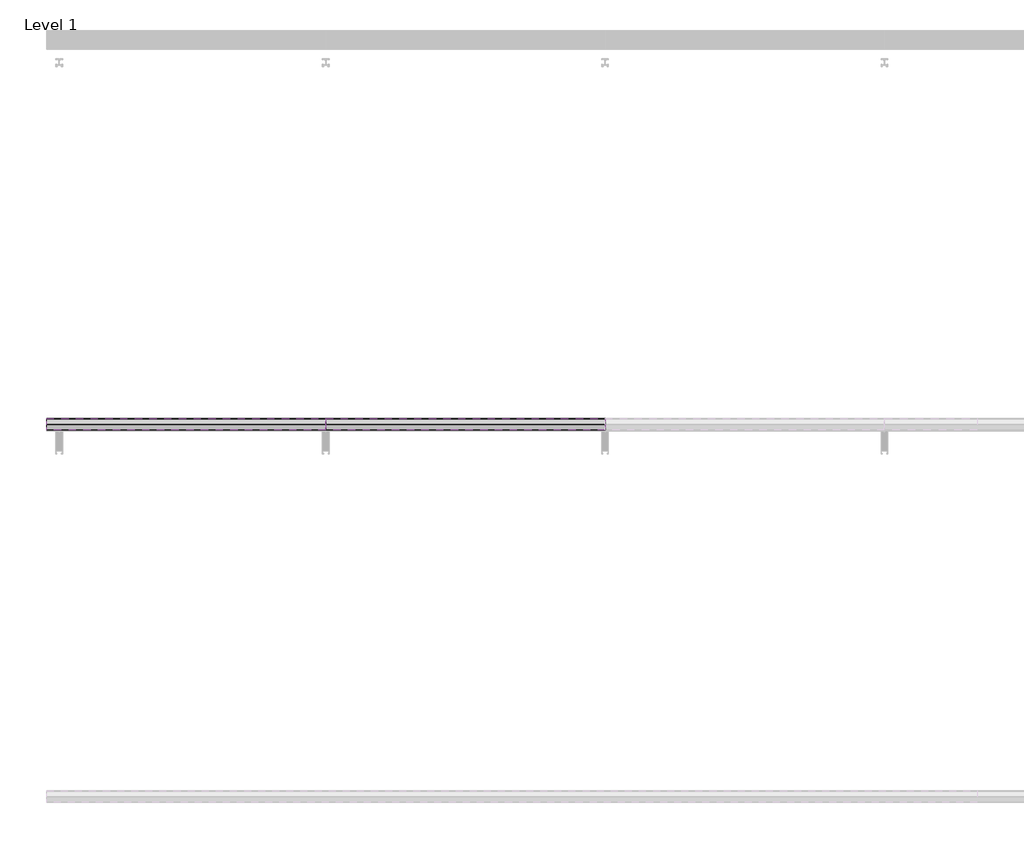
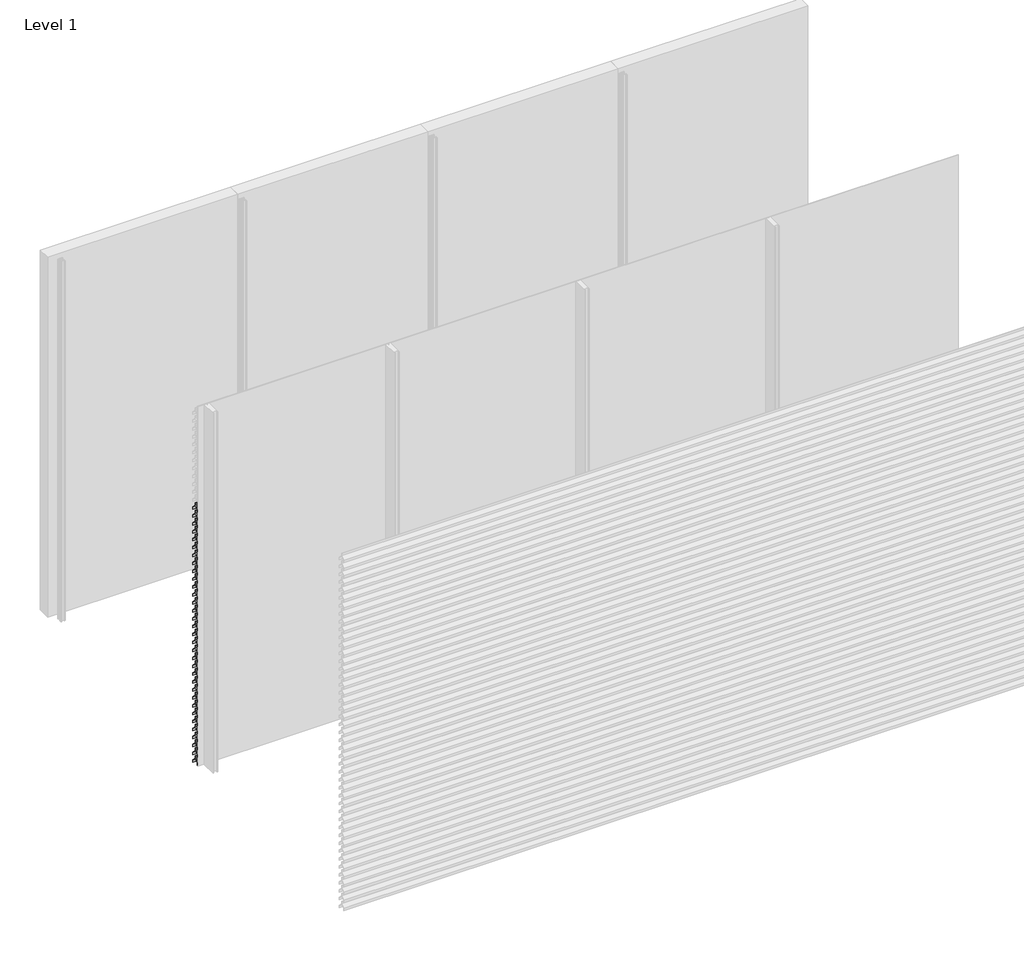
# One storey, part 7 of 35: 70 proxies.
"""IFC4 building model written with IfcOpenShell, lengths in millimetres."""

from ifc_helpers import new_model, si_unit, frame, origin, place, context, project, spatial, polyline, outline, extrude, element, save

model = new_model("IFC4")

# Units and contexts
model_context = context("Model", 3, world=origin())
ifc_project = project(units=[si_unit("LENGTHUNIT", "METRE", prefix="MILLI")], contexts=[model_context])

# Site, building, storey
site = spatial("IfcSite", under=ifc_project)
building = spatial("IfcBuilding", under=site)
storey = spatial("IfcBuildingStorey", under=building, Name="Level 1", Elevation=0.0)

# Proxies
placement = place(None, origin())
element("IfcBuildingElementProxy", 1, Name="Wall Sweeps", at=placement, inside=storey, context=model_context, shape_type="SweptSolid", body=[
    extrude(outline(polyline([(-47936.0, 2124.0), (-47936.0, 2104.0), (-47937.25, 2104.0), (-47937.25, 2123.4342979), (-47968.1138939, 2156.531772), (-47996.7, 2136.4392868), (-47996.7, 2117.6629874), (-47998.0, 2116.8506572), (-47998.0, 2137.1145472), (-47968.537525, 2157.823011), (-47968.537525, 2178.0), (-47967.1772624, 2178.0), (-47967.1772624, 2157.4335207), (-47936.0, 2124.0)])), frame((0.0, 0.0, 0.0), z_axis=(1.0, 0.0, 0.0), x_axis=(0.0, 1.0, 0.0)), (0.0, 0.0, 1.0), 1500.0),
])
element("IfcBuildingElementProxy", 2, Name="Wall Sweeps", at=placement, inside=storey, context=model_context, shape_type="SweptSolid", body=[
    extrude(outline(polyline([(-47936.0, 2058.0), (-47936.0, 2038.0), (-47937.25, 2038.0), (-47937.25, 2057.4342979), (-47968.1138939, 2090.531772), (-47996.7, 2070.4392868), (-47996.7, 2051.6629874), (-47998.0, 2050.8506572), (-47998.0, 2071.1145472), (-47968.537525, 2091.823011), (-47968.537525, 2112.0), (-47967.1772624, 2112.0), (-47967.1772624, 2091.4335207), (-47936.0, 2058.0)])), frame((0.0, 0.0, 0.0), z_axis=(1.0, 0.0, 0.0), x_axis=(0.0, 1.0, 0.0)), (0.0, 0.0, 1.0), 1500.0),
])
element("IfcBuildingElementProxy", 3, Name="Wall Sweeps", at=placement, inside=storey, context=model_context, shape_type="SweptSolid", body=[
    extrude(outline(polyline([(-47936.0, 1992.0), (-47936.0, 1972.0), (-47937.25, 1972.0), (-47937.25, 1991.4342979), (-47968.1138939, 2024.531772), (-47996.7, 2004.4392868), (-47996.7, 1985.6629874), (-47998.0, 1984.8506572), (-47998.0, 2005.1145472), (-47968.537525, 2025.823011), (-47968.537525, 2046.0), (-47967.1772624, 2046.0), (-47967.1772624, 2025.4335207), (-47936.0, 1992.0)])), frame((0.0, 0.0, 0.0), z_axis=(1.0, 0.0, 0.0), x_axis=(0.0, 1.0, 0.0)), (0.0, 0.0, 1.0), 1500.0),
])
element("IfcBuildingElementProxy", 4, Name="Wall Sweeps", at=placement, inside=storey, context=model_context, shape_type="SweptSolid", body=[
    extrude(outline(polyline([(-47936.0, 1926.0), (-47936.0, 1906.0), (-47937.25, 1906.0), (-47937.25, 1925.4342979), (-47968.1138939, 1958.531772), (-47996.7, 1938.4392868), (-47996.7, 1919.6629874), (-47998.0, 1918.8506572), (-47998.0, 1939.1145472), (-47968.537525, 1959.823011), (-47968.537525, 1980.0), (-47967.1772624, 1980.0), (-47967.1772624, 1959.4335207), (-47936.0, 1926.0)])), frame((0.0, 0.0, 0.0), z_axis=(1.0, 0.0, 0.0), x_axis=(0.0, 1.0, 0.0)), (0.0, 0.0, 1.0), 1500.0),
])
element("IfcBuildingElementProxy", 5, Name="Wall Sweeps", at=placement, inside=storey, context=model_context, shape_type="SweptSolid", body=[
    extrude(outline(polyline([(-47936.0, 1860.0), (-47936.0, 1840.0), (-47937.25, 1840.0), (-47937.25, 1859.4342979), (-47968.1138939, 1892.531772), (-47996.7, 1872.4392868), (-47996.7, 1853.6629874), (-47998.0, 1852.8506572), (-47998.0, 1873.1145472), (-47968.537525, 1893.823011), (-47968.537525, 1914.0), (-47967.1772624, 1914.0), (-47967.1772624, 1893.4335207), (-47936.0, 1860.0)])), frame((0.0, 0.0, 0.0), z_axis=(1.0, 0.0, 0.0), x_axis=(0.0, 1.0, 0.0)), (0.0, 0.0, 1.0), 1500.0),
])
element("IfcBuildingElementProxy", 6, Name="Wall Sweeps", at=placement, inside=storey, context=model_context, shape_type="SweptSolid", body=[
    extrude(outline(polyline([(-47936.0, 1794.0), (-47936.0, 1774.0), (-47937.25, 1774.0), (-47937.25, 1793.4342979), (-47968.1138939, 1826.531772), (-47996.7, 1806.4392868), (-47996.7, 1787.6629874), (-47998.0, 1786.8506572), (-47998.0, 1807.1145472), (-47968.537525, 1827.823011), (-47968.537525, 1848.0), (-47967.1772624, 1848.0), (-47967.1772624, 1827.4335207), (-47936.0, 1794.0)])), frame((0.0, 0.0, 0.0), z_axis=(1.0, 0.0, 0.0), x_axis=(0.0, 1.0, 0.0)), (0.0, 0.0, 1.0), 1500.0),
])
element("IfcBuildingElementProxy", 7, Name="Wall Sweeps", at=placement, inside=storey, context=model_context, shape_type="SweptSolid", body=[
    extrude(outline(polyline([(-47936.0, 1728.0), (-47936.0, 1708.0), (-47937.25, 1708.0), (-47937.25, 1727.4342979), (-47968.1138939, 1760.531772), (-47996.7, 1740.4392868), (-47996.7, 1721.6629874), (-47998.0, 1720.8506572), (-47998.0, 1741.1145472), (-47968.537525, 1761.823011), (-47968.537525, 1782.0), (-47967.1772624, 1782.0), (-47967.1772624, 1761.4335207), (-47936.0, 1728.0)])), frame((0.0, 0.0, 0.0), z_axis=(1.0, 0.0, 0.0), x_axis=(0.0, 1.0, 0.0)), (0.0, 0.0, 1.0), 1500.0),
])
element("IfcBuildingElementProxy", 8, Name="Wall Sweeps", at=placement, inside=storey, context=model_context, shape_type="SweptSolid", body=[
    extrude(outline(polyline([(-47936.0, 1662.0), (-47936.0, 1642.0), (-47937.25, 1642.0), (-47937.25, 1661.4342979), (-47968.1138939, 1694.531772), (-47996.7, 1674.4392868), (-47996.7, 1655.6629874), (-47998.0, 1654.8506572), (-47998.0, 1675.1145472), (-47968.537525, 1695.823011), (-47968.537525, 1716.0), (-47967.1772624, 1716.0), (-47967.1772624, 1695.4335207), (-47936.0, 1662.0)])), frame((0.0, 0.0, 0.0), z_axis=(1.0, 0.0, 0.0), x_axis=(0.0, 1.0, 0.0)), (0.0, 0.0, 1.0), 1500.0),
])
element("IfcBuildingElementProxy", 9, Name="Wall Sweeps", at=placement, inside=storey, context=model_context, shape_type="SweptSolid", body=[
    extrude(outline(polyline([(-47936.0, 1596.0), (-47936.0, 1576.0), (-47937.25, 1576.0), (-47937.25, 1595.4342979), (-47968.1138939, 1628.531772), (-47996.7, 1608.4392868), (-47996.7, 1589.6629874), (-47998.0, 1588.8506572), (-47998.0, 1609.1145472), (-47968.537525, 1629.823011), (-47968.537525, 1650.0), (-47967.1772624, 1650.0), (-47967.1772624, 1629.4335207), (-47936.0, 1596.0)])), frame((0.0, 0.0, 0.0), z_axis=(1.0, 0.0, 0.0), x_axis=(0.0, 1.0, 0.0)), (0.0, 0.0, 1.0), 1500.0),
])
element("IfcBuildingElementProxy", 10, Name="Wall Sweeps", at=placement, inside=storey, context=model_context, shape_type="SweptSolid", body=[
    extrude(outline(polyline([(-47936.0, 1530.0), (-47936.0, 1510.0), (-47937.25, 1510.0), (-47937.25, 1529.4342979), (-47968.1138939, 1562.531772), (-47996.7, 1542.4392868), (-47996.7, 1523.6629874), (-47998.0, 1522.8506572), (-47998.0, 1543.1145472), (-47968.537525, 1563.823011), (-47968.537525, 1584.0), (-47967.1772624, 1584.0), (-47967.1772624, 1563.4335207), (-47936.0, 1530.0)])), frame((0.0, 0.0, 0.0), z_axis=(1.0, 0.0, 0.0), x_axis=(0.0, 1.0, 0.0)), (0.0, 0.0, 1.0), 1500.0),
])
element("IfcBuildingElementProxy", 11, Name="Wall Sweeps", at=placement, inside=storey, context=model_context, shape_type="SweptSolid", body=[
    extrude(outline(polyline([(-47936.0, 1464.0), (-47936.0, 1444.0), (-47937.25, 1444.0), (-47937.25, 1463.4342979), (-47968.1138939, 1496.531772), (-47996.7, 1476.4392868), (-47996.7, 1457.6629874), (-47998.0, 1456.8506572), (-47998.0, 1477.1145472), (-47968.537525, 1497.823011), (-47968.537525, 1518.0), (-47967.1772624, 1518.0), (-47967.1772624, 1497.4335207), (-47936.0, 1464.0)])), frame((0.0, 0.0, 0.0), z_axis=(1.0, 0.0, 0.0), x_axis=(0.0, 1.0, 0.0)), (0.0, 0.0, 1.0), 1500.0),
])
element("IfcBuildingElementProxy", 12, Name="Wall Sweeps", at=placement, inside=storey, context=model_context, shape_type="SweptSolid", body=[
    extrude(outline(polyline([(-47936.0, 1398.0), (-47936.0, 1378.0), (-47937.25, 1378.0), (-47937.25, 1397.4342979), (-47968.1138939, 1430.531772), (-47996.7, 1410.4392868), (-47996.7, 1391.6629874), (-47998.0, 1390.8506572), (-47998.0, 1411.1145472), (-47968.537525, 1431.823011), (-47968.537525, 1452.0), (-47967.1772624, 1452.0), (-47967.1772624, 1431.4335207), (-47936.0, 1398.0)])), frame((0.0, 0.0, 0.0), z_axis=(1.0, 0.0, 0.0), x_axis=(0.0, 1.0, 0.0)), (0.0, 0.0, 1.0), 1500.0),
])
element("IfcBuildingElementProxy", 13, Name="Wall Sweeps", at=placement, inside=storey, context=model_context, shape_type="SweptSolid", body=[
    extrude(outline(polyline([(-47936.0, 1332.0), (-47936.0, 1312.0), (-47937.25, 1312.0), (-47937.25, 1331.4342979), (-47968.1138939, 1364.531772), (-47996.7, 1344.4392868), (-47996.7, 1325.6629874), (-47998.0, 1324.8506572), (-47998.0, 1345.1145472), (-47968.537525, 1365.823011), (-47968.537525, 1386.0), (-47967.1772624, 1386.0), (-47967.1772624, 1365.4335207), (-47936.0, 1332.0)])), frame((0.0, 0.0, 0.0), z_axis=(1.0, 0.0, 0.0), x_axis=(0.0, 1.0, 0.0)), (0.0, 0.0, 1.0), 1500.0),
])
element("IfcBuildingElementProxy", 14, Name="Wall Sweeps", at=placement, inside=storey, context=model_context, shape_type="SweptSolid", body=[
    extrude(outline(polyline([(-47936.0, 1266.0), (-47936.0, 1246.0), (-47937.25, 1246.0), (-47937.25, 1265.4342979), (-47968.1138939, 1298.531772), (-47996.7, 1278.4392868), (-47996.7, 1259.6629874), (-47998.0, 1258.8506572), (-47998.0, 1279.1145472), (-47968.537525, 1299.823011), (-47968.537525, 1320.0), (-47967.1772624, 1320.0), (-47967.1772624, 1299.4335207), (-47936.0, 1266.0)])), frame((0.0, 0.0, 0.0), z_axis=(1.0, 0.0, 0.0), x_axis=(0.0, 1.0, 0.0)), (0.0, 0.0, 1.0), 1500.0),
])
element("IfcBuildingElementProxy", 15, Name="Wall Sweeps", at=placement, inside=storey, context=model_context, shape_type="SweptSolid", body=[
    extrude(outline(polyline([(-47936.0, 1200.0), (-47936.0, 1180.0), (-47937.25, 1180.0), (-47937.25, 1199.4342979), (-47968.1138939, 1232.531772), (-47996.7, 1212.4392868), (-47996.7, 1193.6629874), (-47998.0, 1192.8506572), (-47998.0, 1213.1145472), (-47968.537525, 1233.823011), (-47968.537525, 1254.0), (-47967.1772624, 1254.0), (-47967.1772624, 1233.4335207), (-47936.0, 1200.0)])), frame((0.0, 0.0, 0.0), z_axis=(1.0, 0.0, 0.0), x_axis=(0.0, 1.0, 0.0)), (0.0, 0.0, 1.0), 1500.0),
])
element("IfcBuildingElementProxy", 16, Name="Wall Sweeps", at=placement, inside=storey, context=model_context, shape_type="SweptSolid", body=[
    extrude(outline(polyline([(-47936.0, 1134.0), (-47936.0, 1114.0), (-47937.25, 1114.0), (-47937.25, 1133.4342979), (-47968.1138939, 1166.531772), (-47996.7, 1146.4392868), (-47996.7, 1127.6629874), (-47998.0, 1126.8506572), (-47998.0, 1147.1145472), (-47968.537525, 1167.823011), (-47968.537525, 1188.0), (-47967.1772624, 1188.0), (-47967.1772624, 1167.4335207), (-47936.0, 1134.0)])), frame((0.0, 0.0, 0.0), z_axis=(1.0, 0.0, 0.0), x_axis=(0.0, 1.0, 0.0)), (0.0, 0.0, 1.0), 1500.0),
])
element("IfcBuildingElementProxy", 17, Name="Wall Sweeps", at=placement, inside=storey, context=model_context, shape_type="SweptSolid", body=[
    extrude(outline(polyline([(-47936.0, 1068.0), (-47936.0, 1048.0), (-47937.25, 1048.0), (-47937.25, 1067.4342979), (-47968.1138939, 1100.531772), (-47996.7, 1080.4392868), (-47996.7, 1061.6629874), (-47998.0, 1060.8506572), (-47998.0, 1081.1145472), (-47968.537525, 1101.823011), (-47968.537525, 1122.0), (-47967.1772624, 1122.0), (-47967.1772624, 1101.4335207), (-47936.0, 1068.0)])), frame((0.0, 0.0, 0.0), z_axis=(1.0, 0.0, 0.0), x_axis=(0.0, 1.0, 0.0)), (0.0, 0.0, 1.0), 1500.0),
])
element("IfcBuildingElementProxy", 18, Name="Wall Sweeps", at=placement, inside=storey, context=model_context, shape_type="SweptSolid", body=[
    extrude(outline(polyline([(-47936.0, 1002.0), (-47936.0, 982.0), (-47937.25, 982.0), (-47937.25, 1001.4342979), (-47968.1138939, 1034.531772), (-47996.7, 1014.4392868), (-47996.7, 995.6629874), (-47998.0, 994.8506572), (-47998.0, 1015.1145472), (-47968.537525, 1035.823011), (-47968.537525, 1056.0), (-47967.1772624, 1056.0), (-47967.1772624, 1035.4335207), (-47936.0, 1002.0)])), frame((0.0, 0.0, 0.0), z_axis=(1.0, 0.0, 0.0), x_axis=(0.0, 1.0, 0.0)), (0.0, 0.0, 1.0), 1500.0),
])
element("IfcBuildingElementProxy", 19, Name="Wall Sweeps", at=placement, inside=storey, context=model_context, shape_type="SweptSolid", body=[
    extrude(outline(polyline([(-47936.0, 936.0), (-47936.0, 916.0), (-47937.25, 916.0), (-47937.25, 935.4342979), (-47968.1138939, 968.531772), (-47996.7, 948.4392868), (-47996.7, 929.6629874), (-47998.0, 928.8506572), (-47998.0, 949.1145472), (-47968.537525, 969.823011), (-47968.537525, 990.0), (-47967.1772624, 990.0), (-47967.1772624, 969.4335207), (-47936.0, 936.0)])), frame((0.0, 0.0, 0.0), z_axis=(1.0, 0.0, 0.0), x_axis=(0.0, 1.0, 0.0)), (0.0, 0.0, 1.0), 1500.0),
])
element("IfcBuildingElementProxy", 20, Name="Wall Sweeps", at=placement, inside=storey, context=model_context, shape_type="SweptSolid", body=[
    extrude(outline(polyline([(-47936.0, 870.0), (-47936.0, 850.0), (-47937.25, 850.0), (-47937.25, 869.4342979), (-47968.1138939, 902.531772), (-47996.7, 882.4392868), (-47996.7, 863.6629874), (-47998.0, 862.8506572), (-47998.0, 883.1145472), (-47968.537525, 903.823011), (-47968.537525, 924.0), (-47967.1772624, 924.0), (-47967.1772624, 903.4335207), (-47936.0, 870.0)])), frame((0.0, 0.0, 0.0), z_axis=(1.0, 0.0, 0.0), x_axis=(0.0, 1.0, 0.0)), (0.0, 0.0, 1.0), 1500.0),
])
element("IfcBuildingElementProxy", 21, Name="Wall Sweeps", at=placement, inside=storey, context=model_context, shape_type="SweptSolid", body=[
    extrude(outline(polyline([(-47936.0, 804.0), (-47936.0, 784.0), (-47937.25, 784.0), (-47937.25, 803.4342979), (-47968.1138939, 836.531772), (-47996.7, 816.4392868), (-47996.7, 797.6629874), (-47998.0, 796.8506572), (-47998.0, 817.1145472), (-47968.537525, 837.823011), (-47968.537525, 858.0), (-47967.1772624, 858.0), (-47967.1772624, 837.4335207), (-47936.0, 804.0)])), frame((0.0, 0.0, 0.0), z_axis=(1.0, 0.0, 0.0), x_axis=(0.0, 1.0, 0.0)), (0.0, 0.0, 1.0), 1500.0),
])
element("IfcBuildingElementProxy", 22, Name="Wall Sweeps", at=placement, inside=storey, context=model_context, shape_type="SweptSolid", body=[
    extrude(outline(polyline([(-47936.0, 738.0), (-47936.0, 718.0), (-47937.25, 718.0), (-47937.25, 737.4342979), (-47968.1138939, 770.531772), (-47996.7, 750.4392868), (-47996.7, 731.6629874), (-47998.0, 730.8506572), (-47998.0, 751.1145472), (-47968.537525, 771.823011), (-47968.537525, 792.0), (-47967.1772624, 792.0), (-47967.1772624, 771.4335207), (-47936.0, 738.0)])), frame((0.0, 0.0, 0.0), z_axis=(1.0, 0.0, 0.0), x_axis=(0.0, 1.0, 0.0)), (0.0, 0.0, 1.0), 1500.0),
])
element("IfcBuildingElementProxy", 23, Name="Wall Sweeps", at=placement, inside=storey, context=model_context, shape_type="SweptSolid", body=[
    extrude(outline(polyline([(-47936.0, 672.0), (-47936.0, 652.0), (-47937.25, 652.0), (-47937.25, 671.4342979), (-47968.1138939, 704.531772), (-47996.7, 684.4392868), (-47996.7, 665.6629874), (-47998.0, 664.8506572), (-47998.0, 685.1145472), (-47968.537525, 705.823011), (-47968.537525, 726.0), (-47967.1772624, 726.0), (-47967.1772624, 705.4335207), (-47936.0, 672.0)])), frame((0.0, 0.0, 0.0), z_axis=(1.0, 0.0, 0.0), x_axis=(0.0, 1.0, 0.0)), (0.0, 0.0, 1.0), 1500.0),
])
element("IfcBuildingElementProxy", 24, Name="Wall Sweeps", at=placement, inside=storey, context=model_context, shape_type="SweptSolid", body=[
    extrude(outline(polyline([(-47936.0, 606.0), (-47936.0, 586.0), (-47937.25, 586.0), (-47937.25, 605.4342979), (-47968.1138939, 638.531772), (-47996.7, 618.4392868), (-47996.7, 599.6629874), (-47998.0, 598.8506572), (-47998.0, 619.1145472), (-47968.537525, 639.823011), (-47968.537525, 660.0), (-47967.1772624, 660.0), (-47967.1772624, 639.4335207), (-47936.0, 606.0)])), frame((0.0, 0.0, 0.0), z_axis=(1.0, 0.0, 0.0), x_axis=(0.0, 1.0, 0.0)), (0.0, 0.0, 1.0), 1500.0),
])
element("IfcBuildingElementProxy", 25, Name="Wall Sweeps", at=placement, inside=storey, context=model_context, shape_type="SweptSolid", body=[
    extrude(outline(polyline([(-47936.0, 540.0), (-47936.0, 520.0), (-47937.25, 520.0), (-47937.25, 539.4342979), (-47968.1138939, 572.531772), (-47996.7, 552.4392868), (-47996.7, 533.6629874), (-47998.0, 532.8506572), (-47998.0, 553.1145472), (-47968.537525, 573.823011), (-47968.537525, 594.0), (-47967.1772624, 594.0), (-47967.1772624, 573.4335207), (-47936.0, 540.0)])), frame((0.0, 0.0, 0.0), z_axis=(1.0, 0.0, 0.0), x_axis=(0.0, 1.0, 0.0)), (0.0, 0.0, 1.0), 1500.0),
])
element("IfcBuildingElementProxy", 26, Name="Wall Sweeps", at=placement, inside=storey, context=model_context, shape_type="SweptSolid", body=[
    extrude(outline(polyline([(-47936.0, 474.0), (-47936.0, 454.0), (-47937.25, 454.0), (-47937.25, 473.4342979), (-47968.1138939, 506.531772), (-47996.7, 486.4392868), (-47996.7, 467.6629874), (-47998.0, 466.8506572), (-47998.0, 487.1145472), (-47968.537525, 507.823011), (-47968.537525, 528.0), (-47967.1772624, 528.0), (-47967.1772624, 507.4335207), (-47936.0, 474.0)])), frame((0.0, 0.0, 0.0), z_axis=(1.0, 0.0, 0.0), x_axis=(0.0, 1.0, 0.0)), (0.0, 0.0, 1.0), 1500.0),
])
element("IfcBuildingElementProxy", 27, Name="Wall Sweeps", at=placement, inside=storey, context=model_context, shape_type="SweptSolid", body=[
    extrude(outline(polyline([(-47936.0, 408.0), (-47936.0, 388.0), (-47937.25, 388.0), (-47937.25, 407.4342979), (-47968.1138939, 440.531772), (-47996.7, 420.4392868), (-47996.7, 401.6629874), (-47998.0, 400.8506572), (-47998.0, 421.1145472), (-47968.537525, 441.823011), (-47968.537525, 462.0), (-47967.1772624, 462.0), (-47967.1772624, 441.4335207), (-47936.0, 408.0)])), frame((0.0, 0.0, 0.0), z_axis=(1.0, 0.0, 0.0), x_axis=(0.0, 1.0, 0.0)), (0.0, 0.0, 1.0), 1500.0),
])
element("IfcBuildingElementProxy", 28, Name="Wall Sweeps", at=placement, inside=storey, context=model_context, shape_type="SweptSolid", body=[
    extrude(outline(polyline([(-47936.0, 342.0), (-47936.0, 322.0), (-47937.25, 322.0), (-47937.25, 341.4342979), (-47968.1138939, 374.531772), (-47996.7, 354.4392868), (-47996.7, 335.6629874), (-47998.0, 334.8506572), (-47998.0, 355.1145472), (-47968.537525, 375.823011), (-47968.537525, 396.0), (-47967.1772624, 396.0), (-47967.1772624, 375.4335207), (-47936.0, 342.0)])), frame((0.0, 0.0, 0.0), z_axis=(1.0, 0.0, 0.0), x_axis=(0.0, 1.0, 0.0)), (0.0, 0.0, 1.0), 1500.0),
])
element("IfcBuildingElementProxy", 29, Name="Wall Sweeps", at=placement, inside=storey, context=model_context, shape_type="SweptSolid", body=[
    extrude(outline(polyline([(-47936.0, 276.0), (-47936.0, 256.0), (-47937.25, 256.0), (-47937.25, 275.4342979), (-47968.1138939, 308.531772), (-47996.7, 288.4392868), (-47996.7, 269.6629874), (-47998.0, 268.8506572), (-47998.0, 289.1145472), (-47968.537525, 309.823011), (-47968.537525, 330.0), (-47967.1772624, 330.0), (-47967.1772624, 309.4335207), (-47936.0, 276.0)])), frame((0.0, 0.0, 0.0), z_axis=(1.0, 0.0, 0.0), x_axis=(0.0, 1.0, 0.0)), (0.0, 0.0, 1.0), 1500.0),
])
element("IfcBuildingElementProxy", 30, Name="Wall Sweeps", at=placement, inside=storey, context=model_context, shape_type="SweptSolid", body=[
    extrude(outline(polyline([(-47936.0, 210.0), (-47936.0, 190.0), (-47937.25, 190.0), (-47937.25, 209.4342979), (-47968.1138939, 242.531772), (-47996.7, 222.4392868), (-47996.7, 203.6629874), (-47998.0, 202.8506572), (-47998.0, 223.1145472), (-47968.537525, 243.823011), (-47968.537525, 264.0), (-47967.1772624, 264.0), (-47967.1772624, 243.4335207), (-47936.0, 210.0)])), frame((0.0, 0.0, 0.0), z_axis=(1.0, 0.0, 0.0), x_axis=(0.0, 1.0, 0.0)), (0.0, 0.0, 1.0), 1500.0),
])
element("IfcBuildingElementProxy", 31, Name="Wall Sweeps", at=placement, inside=storey, context=model_context, shape_type="SweptSolid", body=[
    extrude(outline(polyline([(-47936.0, 144.0), (-47936.0, 124.0), (-47937.25, 124.0), (-47937.25, 143.4342979), (-47968.1138939, 176.531772), (-47996.7, 156.4392868), (-47996.7, 137.6629874), (-47998.0, 136.8506572), (-47998.0, 157.1145472), (-47968.537525, 177.823011), (-47968.537525, 198.0), (-47967.1772624, 198.0), (-47967.1772624, 177.4335207), (-47936.0, 144.0)])), frame((0.0, 0.0, 0.0), z_axis=(1.0, 0.0, 0.0), x_axis=(0.0, 1.0, 0.0)), (0.0, 0.0, 1.0), 1500.0),
])
element("IfcBuildingElementProxy", 32, Name="Wall Sweeps", at=placement, inside=storey, context=model_context, shape_type="SweptSolid", body=[
    extrude(outline(polyline([(-47936.0, 78.0), (-47936.0, 58.0), (-47937.25, 58.0), (-47937.25, 77.4342979), (-47968.1138939, 110.531772), (-47996.7, 90.4392868), (-47996.7, 71.6629874), (-47998.0, 70.8506572), (-47998.0, 91.1145472), (-47968.537525, 111.823011), (-47968.537525, 132.0), (-47967.1772624, 132.0), (-47967.1772624, 111.4335207), (-47936.0, 78.0)])), frame((0.0, 0.0, 0.0), z_axis=(1.0, 0.0, 0.0), x_axis=(0.0, 1.0, 0.0)), (0.0, 0.0, 1.0), 1500.0),
])
element("IfcBuildingElementProxy", 33, Name="Wall Sweeps", at=placement, inside=storey, context=model_context, shape_type="SweptSolid", body=[
    extrude(outline(polyline([(-47936.0, 12.0), (-47936.0, -8.0), (-47937.25, -8.0), (-47937.25, 11.4342979), (-47968.1138939, 44.531772), (-47996.7, 24.4392868), (-47996.7, 5.6629874), (-47998.0, 4.8506572), (-47998.0, 25.1145472), (-47968.537525, 45.823011), (-47968.537525, 66.0), (-47967.1772624, 66.0), (-47967.1772624, 45.4335207), (-47936.0, 12.0)])), frame((0.0, 0.0, 0.0), z_axis=(1.0, 0.0, 0.0), x_axis=(0.0, 1.0, 0.0)), (0.0, 0.0, 1.0), 1500.0),
])
element("IfcBuildingElementProxy", 34, Name="Wall Sweeps", at=placement, inside=storey, context=model_context, shape_type="SweptSolid", body=[
    extrude(outline(polyline([(-47936.0, 2916.0), (-47936.0, 2896.0), (-47937.25, 2896.0), (-47937.25, 2915.4342979), (-47968.1138939, 2948.531772), (-47996.7, 2928.4392868), (-47996.7, 2909.6629874), (-47998.0, 2908.8506572), (-47998.0, 2929.1145472), (-47968.537525, 2949.823011), (-47968.537525, 2970.0), (-47967.1772624, 2970.0), (-47967.1772624, 2949.4335207), (-47936.0, 2916.0)])), frame((1500.0, 0.0, 0.0), z_axis=(1.0, 0.0, 0.0), x_axis=(0.0, 1.0, 0.0)), (0.0, 0.0, 1.0), 1500.0),
])
element("IfcBuildingElementProxy", 35, Name="Wall Sweeps", at=placement, inside=storey, context=model_context, shape_type="SweptSolid", body=[
    extrude(outline(polyline([(-47936.0, 2850.0), (-47936.0, 2830.0), (-47937.25, 2830.0), (-47937.25, 2849.4342979), (-47968.1138939, 2882.531772), (-47996.7, 2862.4392868), (-47996.7, 2843.6629874), (-47998.0, 2842.8506572), (-47998.0, 2863.1145472), (-47968.537525, 2883.823011), (-47968.537525, 2904.0), (-47967.1772624, 2904.0), (-47967.1772624, 2883.4335207), (-47936.0, 2850.0)])), frame((1500.0, 0.0, 0.0), z_axis=(1.0, 0.0, 0.0), x_axis=(0.0, 1.0, 0.0)), (0.0, 0.0, 1.0), 1500.0),
])
element("IfcBuildingElementProxy", 36, Name="Wall Sweeps", at=placement, inside=storey, context=model_context, shape_type="SweptSolid", body=[
    extrude(outline(polyline([(-47936.0, 2784.0), (-47936.0, 2764.0), (-47937.25, 2764.0), (-47937.25, 2783.4342979), (-47968.1138939, 2816.531772), (-47996.7, 2796.4392868), (-47996.7, 2777.6629874), (-47998.0, 2776.8506572), (-47998.0, 2797.1145472), (-47968.537525, 2817.823011), (-47968.537525, 2838.0), (-47967.1772624, 2838.0), (-47967.1772624, 2817.4335207), (-47936.0, 2784.0)])), frame((1500.0, 0.0, 0.0), z_axis=(1.0, 0.0, 0.0), x_axis=(0.0, 1.0, 0.0)), (0.0, 0.0, 1.0), 1500.0),
])
element("IfcBuildingElementProxy", 37, Name="Wall Sweeps", at=placement, inside=storey, context=model_context, shape_type="SweptSolid", body=[
    extrude(outline(polyline([(-47936.0, 2718.0), (-47936.0, 2698.0), (-47937.25, 2698.0), (-47937.25, 2717.4342979), (-47968.1138939, 2750.531772), (-47996.7, 2730.4392868), (-47996.7, 2711.6629874), (-47998.0, 2710.8506572), (-47998.0, 2731.1145472), (-47968.537525, 2751.823011), (-47968.537525, 2772.0), (-47967.1772624, 2772.0), (-47967.1772624, 2751.4335207), (-47936.0, 2718.0)])), frame((1500.0, 0.0, 0.0), z_axis=(1.0, 0.0, 0.0), x_axis=(0.0, 1.0, 0.0)), (0.0, 0.0, 1.0), 1500.0),
])
element("IfcBuildingElementProxy", 38, Name="Wall Sweeps", at=placement, inside=storey, context=model_context, shape_type="SweptSolid", body=[
    extrude(outline(polyline([(-47936.0, 2652.0), (-47936.0, 2632.0), (-47937.25, 2632.0), (-47937.25, 2651.4342979), (-47968.1138939, 2684.531772), (-47996.7, 2664.4392868), (-47996.7, 2645.6629874), (-47998.0, 2644.8506572), (-47998.0, 2665.1145472), (-47968.537525, 2685.823011), (-47968.537525, 2706.0), (-47967.1772624, 2706.0), (-47967.1772624, 2685.4335207), (-47936.0, 2652.0)])), frame((1500.0, 0.0, 0.0), z_axis=(1.0, 0.0, 0.0), x_axis=(0.0, 1.0, 0.0)), (0.0, 0.0, 1.0), 1500.0),
])
element("IfcBuildingElementProxy", 39, Name="Wall Sweeps", at=placement, inside=storey, context=model_context, shape_type="SweptSolid", body=[
    extrude(outline(polyline([(-47936.0, 2586.0), (-47936.0, 2566.0), (-47937.25, 2566.0), (-47937.25, 2585.4342979), (-47968.1138939, 2618.531772), (-47996.7, 2598.4392868), (-47996.7, 2579.6629874), (-47998.0, 2578.8506572), (-47998.0, 2599.1145472), (-47968.537525, 2619.823011), (-47968.537525, 2640.0), (-47967.1772624, 2640.0), (-47967.1772624, 2619.4335207), (-47936.0, 2586.0)])), frame((1500.0, 0.0, 0.0), z_axis=(1.0, 0.0, 0.0), x_axis=(0.0, 1.0, 0.0)), (0.0, 0.0, 1.0), 1500.0),
])
element("IfcBuildingElementProxy", 40, Name="Wall Sweeps", at=placement, inside=storey, context=model_context, shape_type="SweptSolid", body=[
    extrude(outline(polyline([(-47936.0, 2520.0), (-47936.0, 2500.0), (-47937.25, 2500.0), (-47937.25, 2519.4342979), (-47968.1138939, 2552.531772), (-47996.7, 2532.4392868), (-47996.7, 2513.6629874), (-47998.0, 2512.8506572), (-47998.0, 2533.1145472), (-47968.537525, 2553.823011), (-47968.537525, 2574.0), (-47967.1772624, 2574.0), (-47967.1772624, 2553.4335207), (-47936.0, 2520.0)])), frame((1500.0, 0.0, 0.0), z_axis=(1.0, 0.0, 0.0), x_axis=(0.0, 1.0, 0.0)), (0.0, 0.0, 1.0), 1500.0),
])
element("IfcBuildingElementProxy", 41, Name="Wall Sweeps", at=placement, inside=storey, context=model_context, shape_type="SweptSolid", body=[
    extrude(outline(polyline([(-47936.0, 2454.0), (-47936.0, 2434.0), (-47937.25, 2434.0), (-47937.25, 2453.4342979), (-47968.1138939, 2486.531772), (-47996.7, 2466.4392868), (-47996.7, 2447.6629874), (-47998.0, 2446.8506572), (-47998.0, 2467.1145472), (-47968.537525, 2487.823011), (-47968.537525, 2508.0), (-47967.1772624, 2508.0), (-47967.1772624, 2487.4335207), (-47936.0, 2454.0)])), frame((1500.0, 0.0, 0.0), z_axis=(1.0, 0.0, 0.0), x_axis=(0.0, 1.0, 0.0)), (0.0, 0.0, 1.0), 1500.0),
])
element("IfcBuildingElementProxy", 42, Name="Wall Sweeps", at=placement, inside=storey, context=model_context, shape_type="SweptSolid", body=[
    extrude(outline(polyline([(-47936.0, 2388.0), (-47936.0, 2368.0), (-47937.25, 2368.0), (-47937.25, 2387.4342979), (-47968.1138939, 2420.531772), (-47996.7, 2400.4392868), (-47996.7, 2381.6629874), (-47998.0, 2380.8506572), (-47998.0, 2401.1145472), (-47968.537525, 2421.823011), (-47968.537525, 2442.0), (-47967.1772624, 2442.0), (-47967.1772624, 2421.4335207), (-47936.0, 2388.0)])), frame((1500.0, 0.0, 0.0), z_axis=(1.0, 0.0, 0.0), x_axis=(0.0, 1.0, 0.0)), (0.0, 0.0, 1.0), 1500.0),
])
element("IfcBuildingElementProxy", 43, Name="Wall Sweeps", at=placement, inside=storey, context=model_context, shape_type="SweptSolid", body=[
    extrude(outline(polyline([(-47936.0, 2322.0), (-47936.0, 2302.0), (-47937.25, 2302.0), (-47937.25, 2321.4342979), (-47968.1138939, 2354.531772), (-47996.7, 2334.4392868), (-47996.7, 2315.6629874), (-47998.0, 2314.8506572), (-47998.0, 2335.1145472), (-47968.537525, 2355.823011), (-47968.537525, 2376.0), (-47967.1772624, 2376.0), (-47967.1772624, 2355.4335207), (-47936.0, 2322.0)])), frame((1500.0, 0.0, 0.0), z_axis=(1.0, 0.0, 0.0), x_axis=(0.0, 1.0, 0.0)), (0.0, 0.0, 1.0), 1500.0),
])
element("IfcBuildingElementProxy", 44, Name="Wall Sweeps", at=placement, inside=storey, context=model_context, shape_type="SweptSolid", body=[
    extrude(outline(polyline([(-47936.0, 2256.0), (-47936.0, 2236.0), (-47937.25, 2236.0), (-47937.25, 2255.4342979), (-47968.1138939, 2288.531772), (-47996.7, 2268.4392868), (-47996.7, 2249.6629874), (-47998.0, 2248.8506572), (-47998.0, 2269.1145472), (-47968.537525, 2289.823011), (-47968.537525, 2310.0), (-47967.1772624, 2310.0), (-47967.1772624, 2289.4335207), (-47936.0, 2256.0)])), frame((1500.0, 0.0, 0.0), z_axis=(1.0, 0.0, 0.0), x_axis=(0.0, 1.0, 0.0)), (0.0, 0.0, 1.0), 1500.0),
])
element("IfcBuildingElementProxy", 45, Name="Wall Sweeps", at=placement, inside=storey, context=model_context, shape_type="SweptSolid", body=[
    extrude(outline(polyline([(-47936.0, 2190.0), (-47936.0, 2170.0), (-47937.25, 2170.0), (-47937.25, 2189.4342979), (-47968.1138939, 2222.531772), (-47996.7, 2202.4392868), (-47996.7, 2183.6629874), (-47998.0, 2182.8506572), (-47998.0, 2203.1145472), (-47968.537525, 2223.823011), (-47968.537525, 2244.0), (-47967.1772624, 2244.0), (-47967.1772624, 2223.4335207), (-47936.0, 2190.0)])), frame((1500.0, 0.0, 0.0), z_axis=(1.0, 0.0, 0.0), x_axis=(0.0, 1.0, 0.0)), (0.0, 0.0, 1.0), 1500.0),
])
element("IfcBuildingElementProxy", 46, Name="Wall Sweeps", at=placement, inside=storey, context=model_context, shape_type="SweptSolid", body=[
    extrude(outline(polyline([(-47936.0, 2124.0), (-47936.0, 2104.0), (-47937.25, 2104.0), (-47937.25, 2123.4342979), (-47968.1138939, 2156.531772), (-47996.7, 2136.4392868), (-47996.7, 2117.6629874), (-47998.0, 2116.8506572), (-47998.0, 2137.1145472), (-47968.537525, 2157.823011), (-47968.537525, 2178.0), (-47967.1772624, 2178.0), (-47967.1772624, 2157.4335207), (-47936.0, 2124.0)])), frame((1500.0, 0.0, 0.0), z_axis=(1.0, 0.0, 0.0), x_axis=(0.0, 1.0, 0.0)), (0.0, 0.0, 1.0), 1500.0),
])
element("IfcBuildingElementProxy", 47, Name="Wall Sweeps", at=placement, inside=storey, context=model_context, shape_type="SweptSolid", body=[
    extrude(outline(polyline([(-47936.0, 2058.0), (-47936.0, 2038.0), (-47937.25, 2038.0), (-47937.25, 2057.4342979), (-47968.1138939, 2090.531772), (-47996.7, 2070.4392868), (-47996.7, 2051.6629874), (-47998.0, 2050.8506572), (-47998.0, 2071.1145472), (-47968.537525, 2091.823011), (-47968.537525, 2112.0), (-47967.1772624, 2112.0), (-47967.1772624, 2091.4335207), (-47936.0, 2058.0)])), frame((1500.0, 0.0, 0.0), z_axis=(1.0, 0.0, 0.0), x_axis=(0.0, 1.0, 0.0)), (0.0, 0.0, 1.0), 1500.0),
])
element("IfcBuildingElementProxy", 48, Name="Wall Sweeps", at=placement, inside=storey, context=model_context, shape_type="SweptSolid", body=[
    extrude(outline(polyline([(-47936.0, 1992.0), (-47936.0, 1972.0), (-47937.25, 1972.0), (-47937.25, 1991.4342979), (-47968.1138939, 2024.531772), (-47996.7, 2004.4392868), (-47996.7, 1985.6629874), (-47998.0, 1984.8506572), (-47998.0, 2005.1145472), (-47968.537525, 2025.823011), (-47968.537525, 2046.0), (-47967.1772624, 2046.0), (-47967.1772624, 2025.4335207), (-47936.0, 1992.0)])), frame((1500.0, 0.0, 0.0), z_axis=(1.0, 0.0, 0.0), x_axis=(0.0, 1.0, 0.0)), (0.0, 0.0, 1.0), 1500.0),
])
element("IfcBuildingElementProxy", 49, Name="Wall Sweeps", at=placement, inside=storey, context=model_context, shape_type="SweptSolid", body=[
    extrude(outline(polyline([(-47936.0, 1926.0), (-47936.0, 1906.0), (-47937.25, 1906.0), (-47937.25, 1925.4342979), (-47968.1138939, 1958.531772), (-47996.7, 1938.4392868), (-47996.7, 1919.6629874), (-47998.0, 1918.8506572), (-47998.0, 1939.1145472), (-47968.537525, 1959.823011), (-47968.537525, 1980.0), (-47967.1772624, 1980.0), (-47967.1772624, 1959.4335207), (-47936.0, 1926.0)])), frame((1500.0, 0.0, 0.0), z_axis=(1.0, 0.0, 0.0), x_axis=(0.0, 1.0, 0.0)), (0.0, 0.0, 1.0), 1500.0),
])
element("IfcBuildingElementProxy", 50, Name="Wall Sweeps", at=placement, inside=storey, context=model_context, shape_type="SweptSolid", body=[
    extrude(outline(polyline([(-47936.0, 1860.0), (-47936.0, 1840.0), (-47937.25, 1840.0), (-47937.25, 1859.4342979), (-47968.1138939, 1892.531772), (-47996.7, 1872.4392868), (-47996.7, 1853.6629874), (-47998.0, 1852.8506572), (-47998.0, 1873.1145472), (-47968.537525, 1893.823011), (-47968.537525, 1914.0), (-47967.1772624, 1914.0), (-47967.1772624, 1893.4335207), (-47936.0, 1860.0)])), frame((1500.0, 0.0, 0.0), z_axis=(1.0, 0.0, 0.0), x_axis=(0.0, 1.0, 0.0)), (0.0, 0.0, 1.0), 1500.0),
])
element("IfcBuildingElementProxy", 51, Name="Wall Sweeps", at=placement, inside=storey, context=model_context, shape_type="SweptSolid", body=[
    extrude(outline(polyline([(-47936.0, 1794.0), (-47936.0, 1774.0), (-47937.25, 1774.0), (-47937.25, 1793.4342979), (-47968.1138939, 1826.531772), (-47996.7, 1806.4392868), (-47996.7, 1787.6629874), (-47998.0, 1786.8506572), (-47998.0, 1807.1145472), (-47968.537525, 1827.823011), (-47968.537525, 1848.0), (-47967.1772624, 1848.0), (-47967.1772624, 1827.4335207), (-47936.0, 1794.0)])), frame((1500.0, 0.0, 0.0), z_axis=(1.0, 0.0, 0.0), x_axis=(0.0, 1.0, 0.0)), (0.0, 0.0, 1.0), 1500.0),
])
element("IfcBuildingElementProxy", 52, Name="Wall Sweeps", at=placement, inside=storey, context=model_context, shape_type="SweptSolid", body=[
    extrude(outline(polyline([(-47936.0, 1728.0), (-47936.0, 1708.0), (-47937.25, 1708.0), (-47937.25, 1727.4342979), (-47968.1138939, 1760.531772), (-47996.7, 1740.4392868), (-47996.7, 1721.6629874), (-47998.0, 1720.8506572), (-47998.0, 1741.1145472), (-47968.537525, 1761.823011), (-47968.537525, 1782.0), (-47967.1772624, 1782.0), (-47967.1772624, 1761.4335207), (-47936.0, 1728.0)])), frame((1500.0, 0.0, 0.0), z_axis=(1.0, 0.0, 0.0), x_axis=(0.0, 1.0, 0.0)), (0.0, 0.0, 1.0), 1500.0),
])
element("IfcBuildingElementProxy", 53, Name="Wall Sweeps", at=placement, inside=storey, context=model_context, shape_type="SweptSolid", body=[
    extrude(outline(polyline([(-47936.0, 1662.0), (-47936.0, 1642.0), (-47937.25, 1642.0), (-47937.25, 1661.4342979), (-47968.1138939, 1694.531772), (-47996.7, 1674.4392868), (-47996.7, 1655.6629874), (-47998.0, 1654.8506572), (-47998.0, 1675.1145472), (-47968.537525, 1695.823011), (-47968.537525, 1716.0), (-47967.1772624, 1716.0), (-47967.1772624, 1695.4335207), (-47936.0, 1662.0)])), frame((1500.0, 0.0, 0.0), z_axis=(1.0, 0.0, 0.0), x_axis=(0.0, 1.0, 0.0)), (0.0, 0.0, 1.0), 1500.0),
])
element("IfcBuildingElementProxy", 54, Name="Wall Sweeps", at=placement, inside=storey, context=model_context, shape_type="SweptSolid", body=[
    extrude(outline(polyline([(-47936.0, 1596.0), (-47936.0, 1576.0), (-47937.25, 1576.0), (-47937.25, 1595.4342979), (-47968.1138939, 1628.531772), (-47996.7, 1608.4392868), (-47996.7, 1589.6629874), (-47998.0, 1588.8506572), (-47998.0, 1609.1145472), (-47968.537525, 1629.823011), (-47968.537525, 1650.0), (-47967.1772624, 1650.0), (-47967.1772624, 1629.4335207), (-47936.0, 1596.0)])), frame((1500.0, 0.0, 0.0), z_axis=(1.0, 0.0, 0.0), x_axis=(0.0, 1.0, 0.0)), (0.0, 0.0, 1.0), 1500.0),
])
element("IfcBuildingElementProxy", 55, Name="Wall Sweeps", at=placement, inside=storey, context=model_context, shape_type="SweptSolid", body=[
    extrude(outline(polyline([(-47936.0, 1530.0), (-47936.0, 1510.0), (-47937.25, 1510.0), (-47937.25, 1529.4342979), (-47968.1138939, 1562.531772), (-47996.7, 1542.4392868), (-47996.7, 1523.6629874), (-47998.0, 1522.8506572), (-47998.0, 1543.1145472), (-47968.537525, 1563.823011), (-47968.537525, 1584.0), (-47967.1772624, 1584.0), (-47967.1772624, 1563.4335207), (-47936.0, 1530.0)])), frame((1500.0, 0.0, 0.0), z_axis=(1.0, 0.0, 0.0), x_axis=(0.0, 1.0, 0.0)), (0.0, 0.0, 1.0), 1500.0),
])
element("IfcBuildingElementProxy", 56, Name="Wall Sweeps", at=placement, inside=storey, context=model_context, shape_type="SweptSolid", body=[
    extrude(outline(polyline([(-47936.0, 1464.0), (-47936.0, 1444.0), (-47937.25, 1444.0), (-47937.25, 1463.4342979), (-47968.1138939, 1496.531772), (-47996.7, 1476.4392868), (-47996.7, 1457.6629874), (-47998.0, 1456.8506572), (-47998.0, 1477.1145472), (-47968.537525, 1497.823011), (-47968.537525, 1518.0), (-47967.1772624, 1518.0), (-47967.1772624, 1497.4335207), (-47936.0, 1464.0)])), frame((1500.0, 0.0, 0.0), z_axis=(1.0, 0.0, 0.0), x_axis=(0.0, 1.0, 0.0)), (0.0, 0.0, 1.0), 1500.0),
])
element("IfcBuildingElementProxy", 57, Name="Wall Sweeps", at=placement, inside=storey, context=model_context, shape_type="SweptSolid", body=[
    extrude(outline(polyline([(-47936.0, 1398.0), (-47936.0, 1378.0), (-47937.25, 1378.0), (-47937.25, 1397.4342979), (-47968.1138939, 1430.531772), (-47996.7, 1410.4392868), (-47996.7, 1391.6629874), (-47998.0, 1390.8506572), (-47998.0, 1411.1145472), (-47968.537525, 1431.823011), (-47968.537525, 1452.0), (-47967.1772624, 1452.0), (-47967.1772624, 1431.4335207), (-47936.0, 1398.0)])), frame((1500.0, 0.0, 0.0), z_axis=(1.0, 0.0, 0.0), x_axis=(0.0, 1.0, 0.0)), (0.0, 0.0, 1.0), 1500.0),
])
element("IfcBuildingElementProxy", 58, Name="Wall Sweeps", at=placement, inside=storey, context=model_context, shape_type="SweptSolid", body=[
    extrude(outline(polyline([(-47936.0, 1332.0), (-47936.0, 1312.0), (-47937.25, 1312.0), (-47937.25, 1331.4342979), (-47968.1138939, 1364.531772), (-47996.7, 1344.4392868), (-47996.7, 1325.6629874), (-47998.0, 1324.8506572), (-47998.0, 1345.1145472), (-47968.537525, 1365.823011), (-47968.537525, 1386.0), (-47967.1772624, 1386.0), (-47967.1772624, 1365.4335207), (-47936.0, 1332.0)])), frame((1500.0, 0.0, 0.0), z_axis=(1.0, 0.0, 0.0), x_axis=(0.0, 1.0, 0.0)), (0.0, 0.0, 1.0), 1500.0),
])
element("IfcBuildingElementProxy", 59, Name="Wall Sweeps", at=placement, inside=storey, context=model_context, shape_type="SweptSolid", body=[
    extrude(outline(polyline([(-47936.0, 1266.0), (-47936.0, 1246.0), (-47937.25, 1246.0), (-47937.25, 1265.4342979), (-47968.1138939, 1298.531772), (-47996.7, 1278.4392868), (-47996.7, 1259.6629874), (-47998.0, 1258.8506572), (-47998.0, 1279.1145472), (-47968.537525, 1299.823011), (-47968.537525, 1320.0), (-47967.1772624, 1320.0), (-47967.1772624, 1299.4335207), (-47936.0, 1266.0)])), frame((1500.0, 0.0, 0.0), z_axis=(1.0, 0.0, 0.0), x_axis=(0.0, 1.0, 0.0)), (0.0, 0.0, 1.0), 1500.0),
])
element("IfcBuildingElementProxy", 60, Name="Wall Sweeps", at=placement, inside=storey, context=model_context, shape_type="SweptSolid", body=[
    extrude(outline(polyline([(-47936.0, 1200.0), (-47936.0, 1180.0), (-47937.25, 1180.0), (-47937.25, 1199.4342979), (-47968.1138939, 1232.531772), (-47996.7, 1212.4392868), (-47996.7, 1193.6629874), (-47998.0, 1192.8506572), (-47998.0, 1213.1145472), (-47968.537525, 1233.823011), (-47968.537525, 1254.0), (-47967.1772624, 1254.0), (-47967.1772624, 1233.4335207), (-47936.0, 1200.0)])), frame((1500.0, 0.0, 0.0), z_axis=(1.0, 0.0, 0.0), x_axis=(0.0, 1.0, 0.0)), (0.0, 0.0, 1.0), 1500.0),
])
element("IfcBuildingElementProxy", 61, Name="Wall Sweeps", at=placement, inside=storey, context=model_context, shape_type="SweptSolid", body=[
    extrude(outline(polyline([(-47936.0, 1134.0), (-47936.0, 1114.0), (-47937.25, 1114.0), (-47937.25, 1133.4342979), (-47968.1138939, 1166.531772), (-47996.7, 1146.4392868), (-47996.7, 1127.6629874), (-47998.0, 1126.8506572), (-47998.0, 1147.1145472), (-47968.537525, 1167.823011), (-47968.537525, 1188.0), (-47967.1772624, 1188.0), (-47967.1772624, 1167.4335207), (-47936.0, 1134.0)])), frame((1500.0, 0.0, 0.0), z_axis=(1.0, 0.0, 0.0), x_axis=(0.0, 1.0, 0.0)), (0.0, 0.0, 1.0), 1500.0),
])
element("IfcBuildingElementProxy", 62, Name="Wall Sweeps", at=placement, inside=storey, context=model_context, shape_type="SweptSolid", body=[
    extrude(outline(polyline([(-47936.0, 1068.0), (-47936.0, 1048.0), (-47937.25, 1048.0), (-47937.25, 1067.4342979), (-47968.1138939, 1100.531772), (-47996.7, 1080.4392868), (-47996.7, 1061.6629874), (-47998.0, 1060.8506572), (-47998.0, 1081.1145472), (-47968.537525, 1101.823011), (-47968.537525, 1122.0), (-47967.1772624, 1122.0), (-47967.1772624, 1101.4335207), (-47936.0, 1068.0)])), frame((1500.0, 0.0, 0.0), z_axis=(1.0, 0.0, 0.0), x_axis=(0.0, 1.0, 0.0)), (0.0, 0.0, 1.0), 1500.0),
])
element("IfcBuildingElementProxy", 63, Name="Wall Sweeps", at=placement, inside=storey, context=model_context, shape_type="SweptSolid", body=[
    extrude(outline(polyline([(-47936.0, 1002.0), (-47936.0, 982.0), (-47937.25, 982.0), (-47937.25, 1001.4342979), (-47968.1138939, 1034.531772), (-47996.7, 1014.4392868), (-47996.7, 995.6629874), (-47998.0, 994.8506572), (-47998.0, 1015.1145472), (-47968.537525, 1035.823011), (-47968.537525, 1056.0), (-47967.1772624, 1056.0), (-47967.1772624, 1035.4335207), (-47936.0, 1002.0)])), frame((1500.0, 0.0, 0.0), z_axis=(1.0, 0.0, 0.0), x_axis=(0.0, 1.0, 0.0)), (0.0, 0.0, 1.0), 1500.0),
])
element("IfcBuildingElementProxy", 64, Name="Wall Sweeps", at=placement, inside=storey, context=model_context, shape_type="SweptSolid", body=[
    extrude(outline(polyline([(-47936.0, 936.0), (-47936.0, 916.0), (-47937.25, 916.0), (-47937.25, 935.4342979), (-47968.1138939, 968.531772), (-47996.7, 948.4392868), (-47996.7, 929.6629874), (-47998.0, 928.8506572), (-47998.0, 949.1145472), (-47968.537525, 969.823011), (-47968.537525, 990.0), (-47967.1772624, 990.0), (-47967.1772624, 969.4335207), (-47936.0, 936.0)])), frame((1500.0, 0.0, 0.0), z_axis=(1.0, 0.0, 0.0), x_axis=(0.0, 1.0, 0.0)), (0.0, 0.0, 1.0), 1500.0),
])
element("IfcBuildingElementProxy", 65, Name="Wall Sweeps", at=placement, inside=storey, context=model_context, shape_type="SweptSolid", body=[
    extrude(outline(polyline([(-47936.0, 870.0), (-47936.0, 850.0), (-47937.25, 850.0), (-47937.25, 869.4342979), (-47968.1138939, 902.531772), (-47996.7, 882.4392868), (-47996.7, 863.6629874), (-47998.0, 862.8506572), (-47998.0, 883.1145472), (-47968.537525, 903.823011), (-47968.537525, 924.0), (-47967.1772624, 924.0), (-47967.1772624, 903.4335207), (-47936.0, 870.0)])), frame((1500.0, 0.0, 0.0), z_axis=(1.0, 0.0, 0.0), x_axis=(0.0, 1.0, 0.0)), (0.0, 0.0, 1.0), 1500.0),
])
element("IfcBuildingElementProxy", 66, Name="Wall Sweeps", at=placement, inside=storey, context=model_context, shape_type="SweptSolid", body=[
    extrude(outline(polyline([(-47936.0, 804.0), (-47936.0, 784.0), (-47937.25, 784.0), (-47937.25, 803.4342979), (-47968.1138939, 836.531772), (-47996.7, 816.4392868), (-47996.7, 797.6629874), (-47998.0, 796.8506572), (-47998.0, 817.1145472), (-47968.537525, 837.823011), (-47968.537525, 858.0), (-47967.1772624, 858.0), (-47967.1772624, 837.4335207), (-47936.0, 804.0)])), frame((1500.0, 0.0, 0.0), z_axis=(1.0, 0.0, 0.0), x_axis=(0.0, 1.0, 0.0)), (0.0, 0.0, 1.0), 1500.0),
])
element("IfcBuildingElementProxy", 67, Name="Wall Sweeps", at=placement, inside=storey, context=model_context, shape_type="SweptSolid", body=[
    extrude(outline(polyline([(-47936.0, 738.0), (-47936.0, 718.0), (-47937.25, 718.0), (-47937.25, 737.4342979), (-47968.1138939, 770.531772), (-47996.7, 750.4392868), (-47996.7, 731.6629874), (-47998.0, 730.8506572), (-47998.0, 751.1145472), (-47968.537525, 771.823011), (-47968.537525, 792.0), (-47967.1772624, 792.0), (-47967.1772624, 771.4335207), (-47936.0, 738.0)])), frame((1500.0, 0.0, 0.0), z_axis=(1.0, 0.0, 0.0), x_axis=(0.0, 1.0, 0.0)), (0.0, 0.0, 1.0), 1500.0),
])
element("IfcBuildingElementProxy", 68, Name="Wall Sweeps", at=placement, inside=storey, context=model_context, shape_type="SweptSolid", body=[
    extrude(outline(polyline([(-47936.0, 672.0), (-47936.0, 652.0), (-47937.25, 652.0), (-47937.25, 671.4342979), (-47968.1138939, 704.531772), (-47996.7, 684.4392868), (-47996.7, 665.6629874), (-47998.0, 664.8506572), (-47998.0, 685.1145472), (-47968.537525, 705.823011), (-47968.537525, 726.0), (-47967.1772624, 726.0), (-47967.1772624, 705.4335207), (-47936.0, 672.0)])), frame((1500.0, 0.0, 0.0), z_axis=(1.0, 0.0, 0.0), x_axis=(0.0, 1.0, 0.0)), (0.0, 0.0, 1.0), 1500.0),
])
element("IfcBuildingElementProxy", 69, Name="Wall Sweeps", at=placement, inside=storey, context=model_context, shape_type="SweptSolid", body=[
    extrude(outline(polyline([(-47936.0, 606.0), (-47936.0, 586.0), (-47937.25, 586.0), (-47937.25, 605.4342979), (-47968.1138939, 638.531772), (-47996.7, 618.4392868), (-47996.7, 599.6629874), (-47998.0, 598.8506572), (-47998.0, 619.1145472), (-47968.537525, 639.823011), (-47968.537525, 660.0), (-47967.1772624, 660.0), (-47967.1772624, 639.4335207), (-47936.0, 606.0)])), frame((1500.0, 0.0, 0.0), z_axis=(1.0, 0.0, 0.0), x_axis=(0.0, 1.0, 0.0)), (0.0, 0.0, 1.0), 1500.0),
])
element("IfcBuildingElementProxy", 70, Name="Wall Sweeps", at=placement, inside=storey, context=model_context, shape_type="SweptSolid", body=[
    extrude(outline(polyline([(-47936.0, 540.0), (-47936.0, 520.0), (-47937.25, 520.0), (-47937.25, 539.4342979), (-47968.1138939, 572.531772), (-47996.7, 552.4392868), (-47996.7, 533.6629874), (-47998.0, 532.8506572), (-47998.0, 553.1145472), (-47968.537525, 573.823011), (-47968.537525, 594.0), (-47967.1772624, 594.0), (-47967.1772624, 573.4335207), (-47936.0, 540.0)])), frame((1500.0, 0.0, 0.0), z_axis=(1.0, 0.0, 0.0), x_axis=(0.0, 1.0, 0.0)), (0.0, 0.0, 1.0), 1500.0),
])

save(model, "model.ifc")
